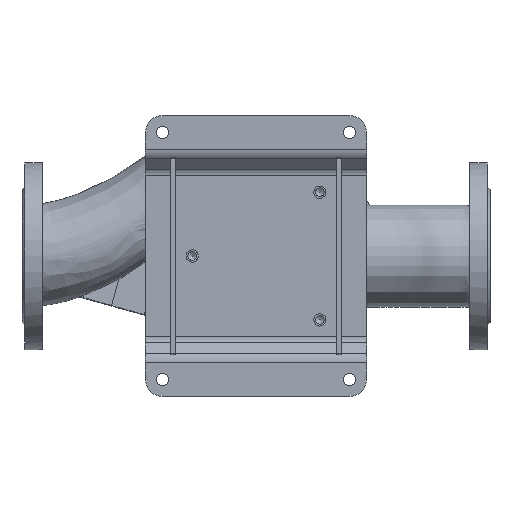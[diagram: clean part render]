
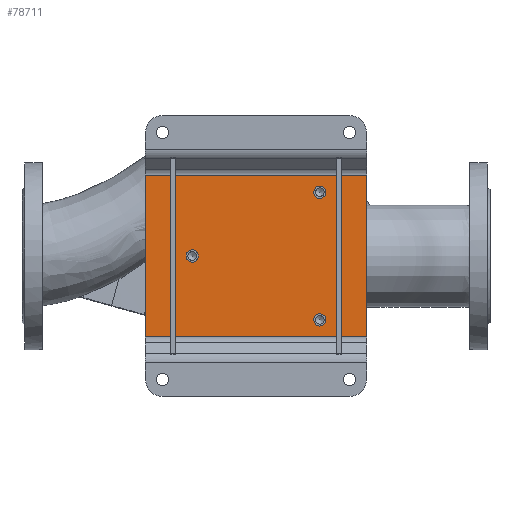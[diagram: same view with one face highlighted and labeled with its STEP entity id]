
A CAD part, top view. The second image highlights one B-rep face of the part: STEP entity #78711.
In plain terms, the highlighted planar face has unit normal (0, 0, 1) as drawn and (0, -1, 0) by its records, which use the part's own axes.
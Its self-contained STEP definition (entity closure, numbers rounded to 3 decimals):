
#811 = VECTOR ( 'NONE', #17328, 1000. ) ;
#1165 = ORIENTED_EDGE ( 'NONE', *, *, #64867, .F. ) ;
#1426 = VECTOR ( 'NONE', #87004, 1000. ) ;
#2245 = FACE_BOUND ( 'NONE', #46669, .T. ) ;
#3280 = ORIENTED_EDGE ( 'NONE', *, *, #42167, .F. ) ;
#4502 = VERTEX_POINT ( 'NONE', #12567 ) ;
#5178 = CARTESIAN_POINT ( 'NONE',  ( -95., -5., 130. ) ) ;
#7213 = FACE_OUTER_BOUND ( 'NONE', #57074, .T. ) ;
#7959 = DIRECTION ( 'NONE',  ( 0., 0., -1. ) ) ;
#9346 = CARTESIAN_POINT ( 'NONE',  ( 95., -5., 130. ) ) ;
#9919 = EDGE_LOOP ( 'NONE', ( #38949 ) ) ;
#10139 = CIRCLE ( 'NONE', #25887, 7.25 ) ;
#10637 = DIRECTION ( 'NONE',  ( 0., 0., -1. ) ) ;
#12567 = CARTESIAN_POINT ( 'NONE',  ( 0., -5., -82.25 ) ) ;
#12645 = CARTESIAN_POINT ( 'NONE',  ( -95., -5., -130. ) ) ;
#13276 = ORIENTED_EDGE ( 'NONE', *, *, #35866, .F. ) ;
#13323 = DIRECTION ( 'NONE',  ( 0., -1., 0. ) ) ;
#13464 = VERTEX_POINT ( 'NONE', #42270 ) ;
#14385 = DIRECTION ( 'NONE',  ( 0., 0., -1. ) ) ;
#17328 = DIRECTION ( 'NONE',  ( 0., 0., -1. ) ) ;
#18553 = AXIS2_PLACEMENT_3D ( 'NONE', #43814, #70742, #30303 ) ;
#18657 = ORIENTED_EDGE ( 'NONE', *, *, #19647, .F. ) ;
#19647 = EDGE_CURVE ( 'NONE', #77102, #71924, #78936, .T. ) ;
#20679 = EDGE_CURVE ( 'NONE', #4502, #4502, #77385, .T. ) ;
#23671 = CARTESIAN_POINT ( 'NONE',  ( 75., -5., 75. ) ) ;
#24311 = CIRCLE ( 'NONE', #75957, 7.25 ) ;
#25887 = AXIS2_PLACEMENT_3D ( 'NONE', #23671, #79819, #10637 ) ;
#27877 = AXIS2_PLACEMENT_3D ( 'NONE', #55321, #84043, #14385 ) ;
#29486 = LINE ( 'NONE', #56905, #63800 ) ;
#30303 = DIRECTION ( 'NONE',  ( 0., 0., -1. ) ) ;
#33048 = LINE ( 'NONE', #5178, #1426 ) ;
#35866 = EDGE_CURVE ( 'NONE', #13464, #13464, #24311, .T. ) ;
#35996 = FACE_BOUND ( 'NONE', #49637, .T. ) ;
#38949 = ORIENTED_EDGE ( 'NONE', *, *, #45121, .F. ) ;
#39668 = LINE ( 'NONE', #12645, #68171 ) ;
#42167 = EDGE_CURVE ( 'NONE', #76990, #70112, #33048, .T. ) ;
#42270 = CARTESIAN_POINT ( 'NONE',  ( -75., -5., 67.75 ) ) ;
#43814 = CARTESIAN_POINT ( 'NONE',  ( 0., -5., -75. ) ) ;
#45121 = EDGE_CURVE ( 'NONE', #55732, #55732, #10139, .T. ) ;
#46669 = EDGE_LOOP ( 'NONE', ( #13276 ) ) ;
#49637 = EDGE_LOOP ( 'NONE', ( #55312 ) ) ;
#52696 = ORIENTED_EDGE ( 'NONE', *, *, #81161, .F. ) ;
#53282 = CARTESIAN_POINT ( 'NONE',  ( 95., -5., 130. ) ) ;
#55312 = ORIENTED_EDGE ( 'NONE', *, *, #20679, .F. ) ;
#55321 = CARTESIAN_POINT ( 'NONE',  ( 0., -5., 0. ) ) ;
#55732 = VERTEX_POINT ( 'NONE', #56161 ) ;
#56161 = CARTESIAN_POINT ( 'NONE',  ( 75., -5., 67.75 ) ) ;
#56646 = PLANE ( 'NONE',  #27877 ) ;
#56905 = CARTESIAN_POINT ( 'NONE',  ( -95., -5., 130. ) ) ;
#57074 = EDGE_LOOP ( 'NONE', ( #18657, #1165, #3280, #52696 ) ) ;
#63800 = VECTOR ( 'NONE', #76674, 1000. ) ;
#64867 = EDGE_CURVE ( 'NONE', #70112, #77102, #29486, .T. ) ;
#68171 = VECTOR ( 'NONE', #74228, 1000. ) ;
#69041 = CARTESIAN_POINT ( 'NONE',  ( -75., -5., 75. ) ) ;
#70112 = VERTEX_POINT ( 'NONE', #82035 ) ;
#70742 = DIRECTION ( 'NONE',  ( 0., -1., 0. ) ) ;
#70897 = CARTESIAN_POINT ( 'NONE',  ( 95., -5., -130. ) ) ;
#71924 = VERTEX_POINT ( 'NONE', #70897 ) ;
#74228 = DIRECTION ( 'NONE',  ( -1., 0., 0. ) ) ;
#75957 = AXIS2_PLACEMENT_3D ( 'NONE', #69041, #13323, #7959 ) ;
#76674 = DIRECTION ( 'NONE',  ( 1., 0., 0. ) ) ;
#76866 = FACE_BOUND ( 'NONE', #9919, .T. ) ;
#76990 = VERTEX_POINT ( 'NONE', #85730 ) ;
#77102 = VERTEX_POINT ( 'NONE', #9346 ) ;
#77385 = CIRCLE ( 'NONE', #18553, 7.25 ) ;
#78711 = ADVANCED_FACE ( 'NONE', ( #76866, #35996, #2245, #7213 ), #56646, .T. ) ;
#78936 = LINE ( 'NONE', #53282, #811 ) ;
#79819 = DIRECTION ( 'NONE',  ( 0., -1., 0. ) ) ;
#81161 = EDGE_CURVE ( 'NONE', #71924, #76990, #39668, .T. ) ;
#82035 = CARTESIAN_POINT ( 'NONE',  ( -95., -5., 130. ) ) ;
#84043 = DIRECTION ( 'NONE',  ( 0., -1., 0. ) ) ;
#85730 = CARTESIAN_POINT ( 'NONE',  ( -95., -5., -130. ) ) ;
#87004 = DIRECTION ( 'NONE',  ( 0., 0., 1. ) ) ;
